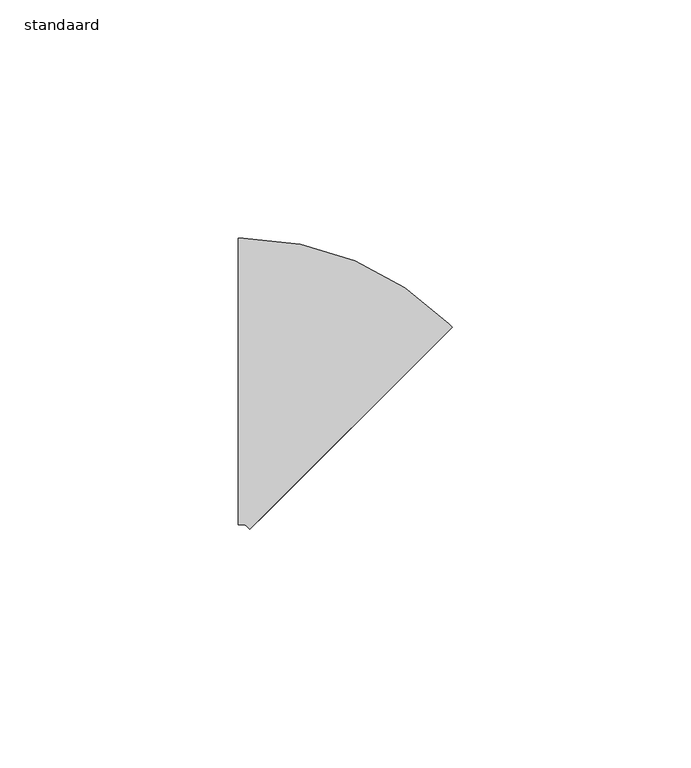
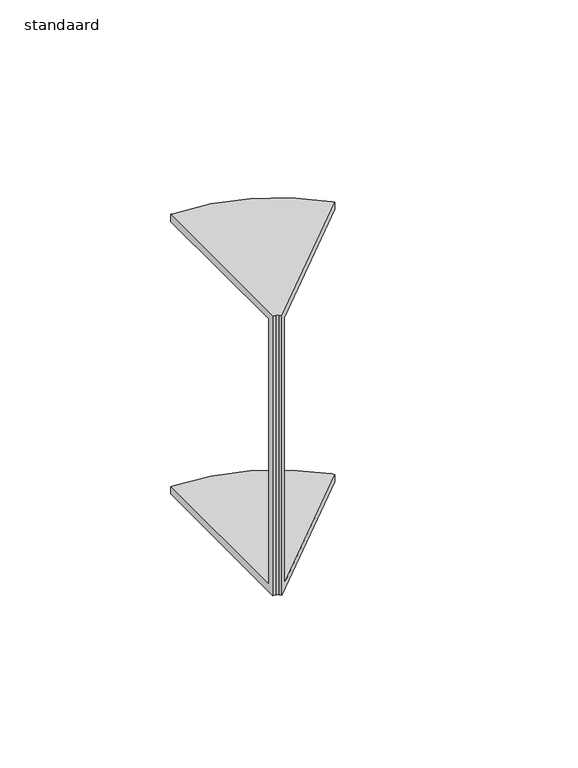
"""IFC4 building model written with IfcOpenShell, lengths in millimetres: cable carrier fitting geometry, AI_Raccord cdc_Coude desencdant : standaard."""

import ifcopenshell
import ifcopenshell.guid

model = None  # the IFC model being written
_history = None  # IfcOwnerHistory: only IFC2X3 demands one
_inside = {}  # id of a spatial element -> (the spatial element, [elements in it])
_under = {}  # id of a project, library or spatial element -> (it, [spatial elements below it])
_declared = {}  # id of a project -> (the project, [libraries it declares])
_typed = {}  # id of a type object -> (the type object, [elements of that type])
_made_of = {}  # id of a material, layer set ... -> (it, [elements and type objects made of it])


def new_model(schema):
    """Start an empty IFC model of exactly this schema.

    Asked for "IFC4X3", IfcOpenShell would pick the latest addendum, in which some entities
    have other attributes; the version numbers below select the first issue.
    IFC2X3 requires an IfcOwnerHistory on every rooted entity: one is made here for all.
    """
    global model, _history
    if schema == "IFC4X3":
        model = ifcopenshell.file(schema_version=(4, 3, 0, 0))
    else:
        model = ifcopenshell.file(schema=schema)
    _inside.clear()
    _under.clear()
    _declared.clear()
    _typed.clear()
    _made_of.clear()
    _history = None
    if model.schema == "IFC2X3":
        org = make("IfcOrganization", Name="unknown")
        user = make(
            "IfcPersonAndOrganization",
            ThePerson=make("IfcPerson", FamilyName="unknown"),
            TheOrganization=org,
        )
        app = make(
            "IfcApplication",
            ApplicationDeveloper=org,
            Version="unknown",
            ApplicationFullName="unknown",
            ApplicationIdentifier="unknown",
        )
        _history = make(
            "IfcOwnerHistory",
            OwningUser=user,
            OwningApplication=app,
            ChangeAction="ADDED",
            CreationDate=0,
        )
    return model


def make(cls, **values):
    """One entity of the class cls with the attributes given. An attribute that is None is left unset."""
    return model.create_entity(
        cls, **{name: value for name, value in values.items() if value is not None}
    )


def rooted(cls, **values):
    """An entity with a GlobalId (a new one), such as an element, a storey or a relation."""
    return make(cls, GlobalId=ifcopenshell.guid.new(), OwnerHistory=_history, **values)


def si_unit(unit_type, name, prefix=None):
    """IfcSIUnit, for example si_unit("LENGTHUNIT", "METRE", prefix="MILLI")."""
    return make("IfcSIUnit", UnitType=unit_type, Prefix=prefix, Name=name)


def assignment(units):
    """IfcUnitAssignment: the units of a project."""
    return None if units is None else make("IfcUnitAssignment", Units=units)


def point(xyz):
    """IfcCartesianPoint."""
    return None if xyz is None else make("IfcCartesianPoint", Coordinates=xyz)


def direction(xyz):
    """IfcDirection."""
    return None if xyz is None else make("IfcDirection", DirectionRatios=xyz)


def frame(location, z_axis=None, x_axis=None):
    """IfcAxis2Placement3D, a coordinate frame: its origin and axes. An axis left out is left unset."""
    return make(
        "IfcAxis2Placement3D",
        Location=point(location),
        Axis=direction(z_axis),
        RefDirection=direction(x_axis),
    )


def origin():
    """The frame at (0, 0, 0) with its axes left unset."""
    return frame((0.0, 0.0, 0.0))


def place(relative_to, where):
    """IfcLocalPlacement: puts the frame where relative to a parent placement (None: the world)."""
    return make(
        "IfcLocalPlacement", PlacementRelTo=relative_to, RelativePlacement=where
    )


def context(
    kind, dimensions, precision=None, world=None, true_north=None, identifier=None
):
    """IfcGeometricRepresentationContext, for example the 3D "Model" context."""
    return make(
        "IfcGeometricRepresentationContext",
        ContextIdentifier=identifier,
        ContextType=kind,
        CoordinateSpaceDimension=dimensions,
        Precision=precision,
        WorldCoordinateSystem=world,
        TrueNorth=true_north,
    )


def project(units=None, contexts=None):
    """IfcProject with its units and contexts."""
    return rooted(
        "IfcProject",
        Name="project",
        RepresentationContexts=contexts,
        UnitsInContext=assignment(units),
    )


def spatial(cls, under=None, at=None, **own):
    """A site, building, storey or space (cls), placed at a placement, below another one or the project."""
    s = rooted(cls, ObjectPlacement=at, **own)
    if under is not None:
        _under.setdefault(under.id(), (under, []))[1].append(s)
    return s


def polyline(points):
    """IfcPolyline through the points."""
    return make("IfcPolyline", Points=[point(p) for p in points])


def circle_curve(where, radius):
    """IfcCircle in the frame where."""
    return make("IfcCircle", Position=where, Radius=radius)


def shape(context_of_items, identifier, shape_type, items):
    """IfcShapeRepresentation: the items that make up one representation, for example the "Body"."""
    return make(
        "IfcShapeRepresentation",
        ContextOfItems=context_of_items,
        RepresentationIdentifier=identifier,
        RepresentationType=shape_type,
        Items=items,
    )


def source(mapping_origin, context_of_items, identifier, shape_type, items):
    """IfcRepresentationMap: a shape defined once, which mapped items show again and again."""
    return make(
        "IfcRepresentationMap",
        MappingOrigin=mapping_origin,
        MappedRepresentation=shape(context_of_items, identifier, shape_type, items),
    )


def transform(
    local_origin,
    x_axis=None,
    y_axis=None,
    z_axis=None,
    scale=None,
    scale2=None,
    scale3=None,
    uniform=True,
):
    """IfcCartesianTransformationOperator3D, or its non-uniform kind. x_axis, y_axis, z_axis: its Axis1, 2, 3."""
    if uniform:
        return make(
            "IfcCartesianTransformationOperator3D",
            Axis1=direction(x_axis),
            Axis2=direction(y_axis),
            LocalOrigin=point(local_origin),
            Scale=scale,
            Axis3=direction(z_axis),
        )
    return make(
        "IfcCartesianTransformationOperator3DnonUniform",
        Axis1=direction(x_axis),
        Axis2=direction(y_axis),
        LocalOrigin=point(local_origin),
        Scale=scale,
        Axis3=direction(z_axis),
        Scale2=scale2,
        Scale3=scale3,
    )


def mapped(mapping_source, mapping_target):
    """IfcMappedItem: shows the shape of a source again, moved by a transform."""
    return make(
        "IfcMappedItem", MappingSource=mapping_source, MappingTarget=mapping_target
    )


def made_of(thing, what):
    """Note that an element or type object is made of a material, layer set ...; save() writes the relation."""
    if what is not None:
        _made_of.setdefault(what.id(), (what, []))[1].append(thing)
    return thing


def element(
    cls,
    number,
    at=None,
    inside=None,
    cuts=None,
    type_object=None,
    material=None,
    context=None,
    identifier="Body",
    shape_type=None,
    held_by="IfcProductDefinitionShape",
    body=None,
    shapes=None,
    **own,
):
    """One element of the class cls, such as IfcWall. Its Tag is "e" and its number.

    at: its placement. inside: the storey or other place that contains it. cuts: it is an
    opening in that element (IfcRelVoidsElement). A single representation is given by context,
    identifier, shape_type and body (its items); several are given by shapes. held_by: the class
    of the entity that holds the representations. save() writes the other relations.
    """
    e = rooted(cls, Tag="e%d" % number, ObjectPlacement=at, **own)
    if body is not None:
        shapes = [shape(context, identifier, shape_type, body)]
    if shapes is not None:
        e.Representation = make(held_by, Representations=shapes)
    if inside is not None:
        _inside.setdefault(inside.id(), (inside, []))[1].append(e)
    if cuts is not None:
        rooted(
            "IfcRelVoidsElement", RelatingBuildingElement=cuts, RelatedOpeningElement=e
        )
    if type_object is not None:
        _typed.setdefault(type_object.id(), (type_object, []))[1].append(e)
    return made_of(e, material)


def aggregate(whole, parts):
    """IfcRelAggregates: a whole, such as a stair, and the parts it consists of."""
    return rooted("IfcRelAggregates", RelatingObject=whole, RelatedObjects=parts)


def save(model, path):
    """Write the relations noted so far, then the file.

    IfcRelAggregates (storeys below a building ...), IfcRelContainedInSpatialStructure (elements
    in a storey), IfcRelDefinesByType, IfcRelAssociatesMaterial and IfcRelDeclares: one each for
    every whole, place, type object, material and project.
    """
    for whole, parts in _under.values():
        aggregate(whole, parts)
    for where, things in _inside.values():
        rooted(
            "IfcRelContainedInSpatialStructure",
            RelatedElements=things,
            RelatingStructure=where,
        )
    for kind, things in _typed.values():
        rooted("IfcRelDefinesByType", RelatedObjects=things, RelatingType=kind)
    for what, things in _made_of.values():
        rooted("IfcRelAssociatesMaterial", RelatedObjects=things, RelatingMaterial=what)
    for by, libraries in _declared.values():
        rooted("IfcRelDeclares", RelatingContext=by, RelatedDefinitions=libraries)
    model.write(path)


def plane_surface(at):
    """IfcPlane: the flat surface through the origin of the frame at, square to its z axis."""
    return make("IfcPlane", Position=at)


def cylinder_surface(at, radius):
    """IfcCylindricalSurface: all points at the distance radius from the z axis of the frame at."""
    return make("IfcCylindricalSurface", Position=at, Radius=radius)


def revolved_surface(curve, axis_point, axis_direction):
    """IfcSurfaceOfRevolution: the curve turned about the line through axis_point along axis_direction."""
    return make(
        "IfcSurfaceOfRevolution",
        SweptCurve=make("IfcArbitraryOpenProfileDef", ProfileType="CURVE", Curve=curve),
        AxisPosition=make("IfcAxis1Placement", Location=point(axis_point), Axis=direction(axis_direction)),
    )


def advanced_brep(points, edges, surfaces, faces):
    """IfcAdvancedBrep: a solid bounded by faces that lie on surfaces and meet in shared edges.

    An edge is (start, end): straight between two places in points (the first is 0);
    or (start, end, curve); or (start, end, curve, False) where it runs against its curve.
    A face is (place in surfaces, loops), or (place, loops, False) where it looks against
    its surface's normal. A loop lists edges by number (the first is 1), with a minus sign
    where the edge is run from its end to its start. The first loop is the outer one.
    """
    corners = [point(p) for p in points]
    vertices = [make("IfcVertexPoint", VertexGeometry=c) for c in corners]
    made = []
    for start, end, *more in edges:
        made.append(
            make(
                "IfcEdgeCurve",
                EdgeStart=vertices[start],
                EdgeEnd=vertices[end],
                EdgeGeometry=more[0] if more else make("IfcPolyline", Points=[corners[start], corners[end]]),
                SameSense=more[1] if len(more) > 1 else True,
            )
        )
    hull = []
    for where, loops, *sense in faces:
        bounds = []
        for j, loop in enumerate(loops):
            ring = [make("IfcOrientedEdge", EdgeElement=made[abs(k) - 1], Orientation=k > 0) for k in loop]
            bounds.append(
                make(
                    "IfcFaceOuterBound" if j == 0 else "IfcFaceBound",
                    Bound=make("IfcEdgeLoop", EdgeList=ring),
                    Orientation=True,
                )
            )
        hull.append(make("IfcAdvancedFace", Bounds=bounds, FaceSurface=surfaces[where], SameSense=sense[0] if sense else True))
    return make("IfcAdvancedBrep", Outer=make("IfcClosedShell", CfsFaces=hull))


def standaard_70577946(model_context):
    return source(origin(), model_context, "Body", "AdvancedBrep", [
        advanced_brep(
        [(-13.8406204, 30.0, 50.0), (-13.8406204, 30.0, 47.46), (-13.8406204, -27.46, 47.46), (-13.8406204, -27.46, -47.46), (-13.8406204, 30.0, -47.46), (-13.8406204, 30.0, -50.0), (-13.8406204, -30.0, -50.0), (-13.8406204, -30.0, 50.0), (31.0, 11.4264069, 50.0), (-11.4264069, -31.0, 50.0), (-11.4264069, -31.0, -50.0), (31.0, 11.4264069, -50.0), (31.0, 11.4264069, -47.46), (-9.6303557, -29.2039488, -47.46), (-9.6303557, -29.2039488, 47.46), (31.0, 11.4264069, 47.46), (-12.8406204, -30.0, 50.0), (-12.1335137, -30.2928932, 50.0), (30.2928932, 12.1335137, 50.0), (-12.8406204, 30.0, 50.0), (-12.8406204, -30.0, -50.0), (-12.8406204, 30.0, -50.0), (30.2928932, 12.1335137, -50.0), (-12.1335137, -30.2928932, -50.0), (-12.8406204, 30.0, -47.46), (-12.8406204, -27.46, -47.46), (-10.3374624, -28.496842, -47.46), (30.2928932, 12.1335137, -47.46), (-12.8406204, -27.46, 47.46), (-12.8406204, 30.0, 47.46), (30.2928932, 12.1335137, 47.46), (-10.3374624, -28.496842, 47.46)],
        [
            (0, 1),
            (1, 2),
            (2, 3),
            (3, 4),
            (4, 5),
            (5, 6),
            (6, 7),
            (7, 0),
            (8, 9),
            (9, 10),
            (10, 11),
            (11, 12),
            (12, 13),
            (13, 14),
            (14, 15),
            (15, 8),
            (7, 16),
            (16, 17, circle_curve(frame((-12.8406204, -31.0, 50.0), z_axis=(0.0, 0.0, -1.0), x_axis=(0.0, 1.0, 0.0)), 1.0)),
            (17, 9),
            (8, 18),
            (18, 19, circle_curve(frame((-12.8406204, -31.0, 50.0), z_axis=(0.0, 0.0, 1.0), x_axis=(0.0, 1.0, 0.0)), 61.0)),
            (19, 0),
            (6, 20),
            (20, 16),
            (5, 21),
            (21, 22, circle_curve(frame((-12.8406204, -31.0, -50.0), z_axis=(0.0, 0.0, -1.0), x_axis=(0.0, 1.0, 0.0)), 61.0)),
            (22, 11),
            (10, 23),
            (23, 20, circle_curve(frame((-12.8406204, -31.0, -50.0), z_axis=(0.0, 0.0, 1.0), x_axis=(0.0, 1.0, 0.0)), 1.0)),
            (4, 24),
            (24, 21),
            (3, 25),
            (25, 26, circle_curve(frame((-12.8406204, -31.0, -47.46), z_axis=(0.0, 0.0, -1.0), x_axis=(0.0, 1.0, 0.0)), 3.54)),
            (26, 13),
            (12, 27),
            (27, 24, circle_curve(frame((-12.8406204, -31.0, -47.46), z_axis=(0.0, 0.0, 1.0), x_axis=(0.0, 1.0, 0.0)), 61.0)),
            (2, 28),
            (28, 25),
            (1, 29),
            (29, 30, circle_curve(frame((-12.8406204, -31.0, 47.46), z_axis=(0.0, 0.0, -1.0), x_axis=(0.0, 1.0, 0.0)), 61.0)),
            (30, 15),
            (14, 31),
            (31, 28, circle_curve(frame((-12.8406204, -31.0, 47.46), z_axis=(0.0, 0.0, 1.0), x_axis=(0.0, 1.0, 0.0)), 3.54)),
            (19, 29),
            (23, 17),
            (27, 22),
            (31, 26),
            (18, 30),
        ],
        [
            plane_surface(frame((-13.8406204, 0.0, 0.0), z_axis=(-1.0, 4.915201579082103e-12, 0.0), x_axis=(0.0, 0.0, 1.0))),
            plane_surface(frame((9.7867966, -9.7867966, 0.0), z_axis=(0.7071067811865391, -0.707106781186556, 0.0), x_axis=(0.0, 0.0, 1.0))),
            plane_surface(frame((-13.8406204, 30.0, 50.0), z_axis=(0.0, 0.0, 1.0), x_axis=(1.0, -4.923661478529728e-12, 0.0))),
            plane_surface(frame((-13.8406204, -30.0, 50.0), z_axis=(-4.915201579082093e-12, -1.0, 0.0), x_axis=(1.0, -4.915201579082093e-12, 0.0))),
            plane_surface(frame((-13.8406204, -30.0, -50.0), z_axis=(0.0, 0.0, -1.0), x_axis=(1.0, -4.915201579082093e-12, 0.0))),
            plane_surface(frame((-13.8406204, 30.0, -50.0), z_axis=(4.923661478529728e-12, 1.0, 0.0), x_axis=(1.0, -4.923661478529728e-12, 0.0))),
            plane_surface(frame((-13.8406204, 30.0, -47.46), z_axis=(0.0, 0.0, 1.0), x_axis=(1.0, -4.923661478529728e-12, 0.0))),
            plane_surface(frame((-13.8406204, -27.46, -47.46), z_axis=(4.915201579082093e-12, 1.0, 0.0), x_axis=(1.0, -4.915201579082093e-12, 0.0))),
            plane_surface(frame((-13.8406204, -27.46, 47.46), z_axis=(0.0, 0.0, -1.0), x_axis=(1.0, -4.915201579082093e-12, 0.0))),
            plane_surface(frame((-13.8406204, 30.0, 47.46), z_axis=(4.923661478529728e-12, 1.0, 0.0), x_axis=(1.0, -4.923661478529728e-12, 0.0))),
            revolved_surface(polyline([(-12.8406204, -30.0, 50.0), (-12.8406204, -30.0, -50.0)]), (-12.8406204, -31.0, 0.0), (0.0, 0.0, 1.0)),
            cylinder_surface(frame((-12.8406204, -31.0, 0.0), z_axis=(0.0, 0.0, 1.0), x_axis=(0.0, 1.0, 0.0)), 61.0),
            cylinder_surface(frame((-12.8406204, -31.0, 0.0), z_axis=(0.0, 0.0, 1.0), x_axis=(0.0, 1.0, 0.0)), 3.54),
            plane_surface(frame((-12.1335137, -30.2928932, 50.0), z_axis=(-0.7071067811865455, -0.7071067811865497, 0.0), x_axis=(0.7071067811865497, -0.7071067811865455, 0.0))),
            plane_surface(frame((30.2928932, 12.1335137, -50.0), z_axis=(0.7071067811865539, 0.7071067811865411, 0.0), x_axis=(0.7071067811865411, -0.7071067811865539, 0.0))),
            plane_surface(frame((-10.3374624, -28.496842, -47.46), z_axis=(0.7071067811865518, 0.7071067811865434, 0.0), x_axis=(0.7071067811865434, -0.7071067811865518, 0.0))),
            plane_surface(frame((30.2928932, 12.1335137, 47.46), z_axis=(0.7071067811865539, 0.7071067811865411, 0.0), x_axis=(0.7071067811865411, -0.7071067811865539, 0.0))),
        ],
        [
            (0, [[1, 2, 3, 4, 5, 6, 7, 8]]),
            (1, [[9, 10, 11, 12, 13, 14, 15, 16]]),
            (2, [[17, 18, 19, -9, 20, 21, 22, -8]]),
            (3, [[23, 24, -17, -7]]),
            (4, [[25, 26, 27, -11, 28, 29, -23, -6]]),
            (5, [[30, 31, -25, -5]]),
            (6, [[32, 33, 34, -13, 35, 36, -30, -4]]),
            (7, [[37, 38, -32, -3]]),
            (8, [[39, 40, 41, -15, 42, 43, -37, -2]]),
            (9, [[-22, 44, -39, -1]]),
            (10, [[45, -18, -24, -29]]),
            (11, [[46, -26, -31, -36]]),
            (12, [[47, -33, -38, -43]]),
            (11, [[48, -40, -44, -21]]),
            (13, [[-28, -10, -19, -45]]),
            (14, [[-35, -12, -27, -46]]),
            (15, [[-42, -14, -34, -47]]),
            (16, [[-20, -16, -41, -48]]),
        ],
    ),
    ])


if __name__ == "__main__":
    model = new_model("IFC4")
    model_context = context("Model", 3, world=origin())
    ifc_project = project(units=[si_unit("LENGTHUNIT", "METRE", prefix="MILLI")], contexts=[model_context])
    site = spatial("IfcSite", under=ifc_project)
    building = spatial("IfcBuilding", under=site)
    placement = place(None, origin())
    standaard_shape = standaard_70577946(model_context)
    element("IfcCableCarrierFitting", 1, ObjectType="AI_Raccord cdc_Coude desencdant : standaard", at=placement, inside=building, context=model_context, shape_type="MappedRepresentation", body=[
        mapped(standaard_shape, transform((0.0, 0.0, 0.0), x_axis=(1.0, 0.0, 0.0), y_axis=(0.0, 1.0, 0.0), z_axis=(0.0, 0.0, 1.0))),
    ])
    save(model, "model.ifc")
